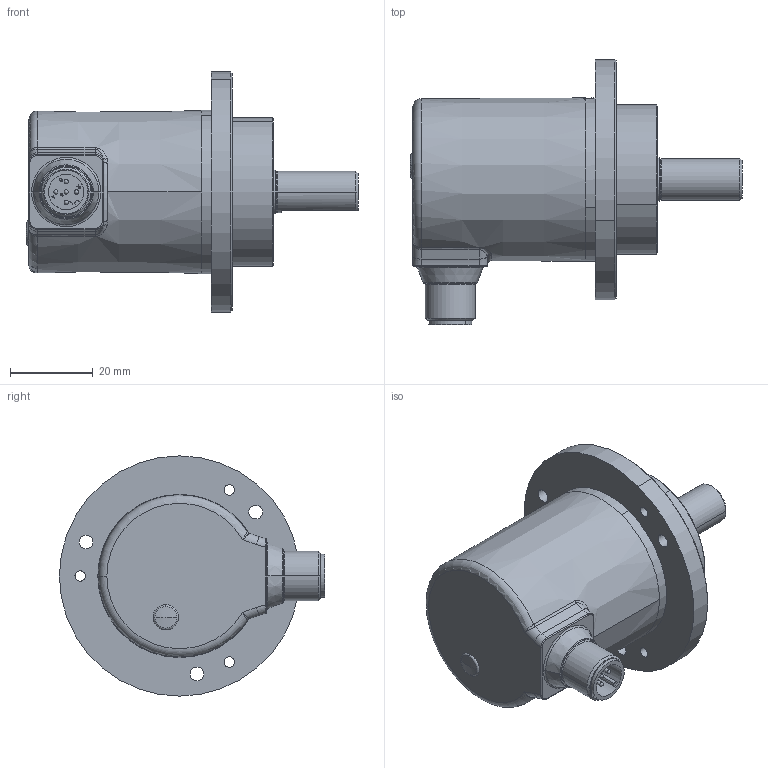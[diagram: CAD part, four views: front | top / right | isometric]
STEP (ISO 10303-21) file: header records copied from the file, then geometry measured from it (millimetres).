
FILE_DESCRIPTION (( 'STEP AP214' ), '1' );
FILE_NAME ('REM-E-195x10C-xxxxx-H11.STEP', '2021-07-13T14:21:11', ( '' ), ( '' ), 'SwSTEP 2.0', 'SolidWorks 2019', '' );
FILE_SCHEMA (( 'AUTOMOTIVE_DESIGN' ));
Length unit declared in the file: millimetre
Products named in the file (1): REM-E-195x10C-xxxxx-H11
Bounding box: 80.15 x 64 x 58 mm (x, y, z)
Volume: 75552.8 mm3; surface area: 19703.6 mm2
Topology: 4 solids, 7 shells, 419 faces, 999 edges, 612 vertices
Faces by surface type: cylinder 123, plane 97, torus 74, cone 64, bspline 54, sphere 7
Entity records: 17809 total; most frequent: CARTESIAN_POINT 5792, DIRECTION 2040, ORIENTED_EDGE 1968, EDGE_CURVE 984, AXIS2_PLACEMENT_3D 850, VERTEX_POINT 611, CIRCLE 484, EDGE_LOOP 479
